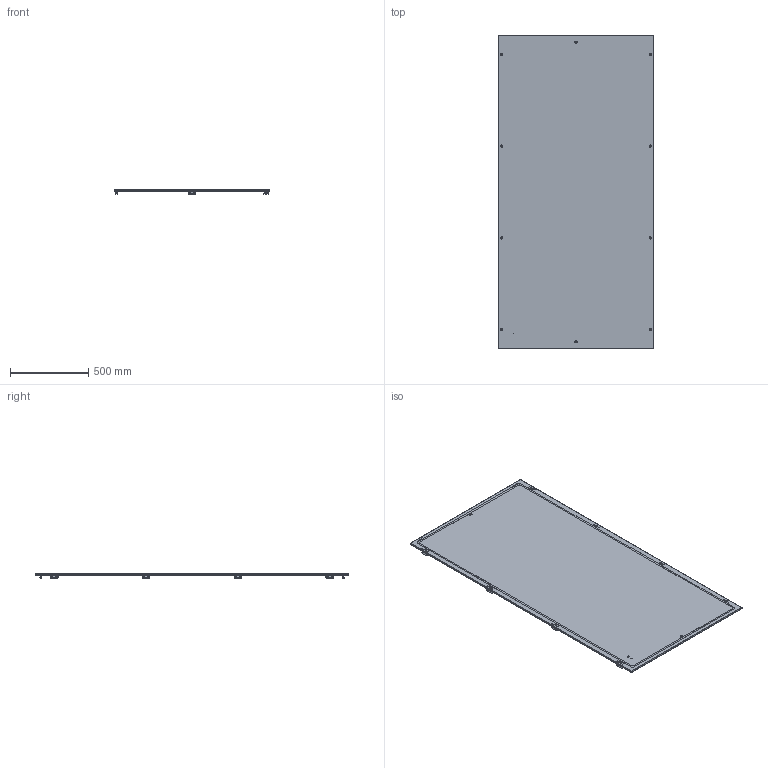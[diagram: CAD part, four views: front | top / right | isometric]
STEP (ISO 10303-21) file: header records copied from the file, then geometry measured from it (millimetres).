
FILE_DESCRIPTION (( 'STEP AP214' ), '1' );
FILE_NAME ('YKM40D-FO-FP-200-100-54 Ïàíåëü çàäíÿÿ 2000õ1000 ìì IP54.STEP', '2025-08-21T12:59:29', ( '' ), ( '' ), 'SwSTEP 2.0', 'SolidWorks 2023', '' );
FILE_SCHEMA (( 'AUTOMOTIVE_DESIGN' ));
Length unit declared in the file: millimetre
Products named in the file (1): YKM40D-FO-FP-200-100-54 Панель задняя 2000х1000 мм IP54
Bounding box: 995 x 2000 x 35.85 mm (x, y, z)
Volume: 3190481.5 mm3; surface area: 4289749 mm2
Topology: 1 solids, 2 shells, 1643 faces, 4407 edges, 2834 vertices
Faces by surface type: plane 792, cylinder 573, cone 244, bspline 26, torus 8
Entity records: 52782 total; most frequent: CARTESIAN_POINT 10529, DIRECTION 9065, ORIENTED_EDGE 8814, EDGE_CURVE 4407, AXIS2_PLACEMENT_3D 3160, VERTEX_POINT 2834, VECTOR 2745, LINE 2745
